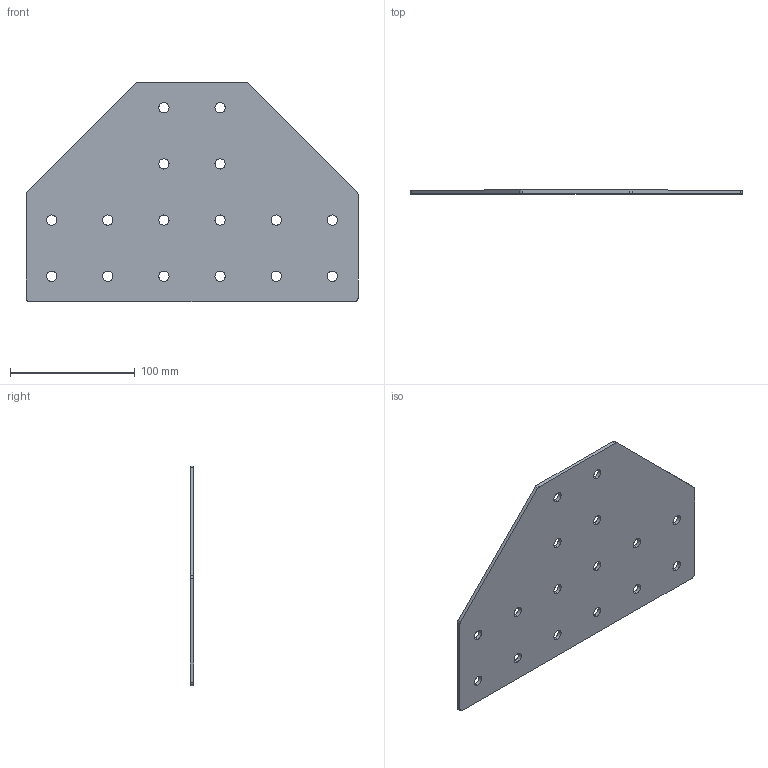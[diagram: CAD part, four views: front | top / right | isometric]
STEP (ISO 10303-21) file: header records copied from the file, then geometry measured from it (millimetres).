
FILE_DESCRIPTION (( 'STEP AP203' ), '1' );
FILE_NAME ('ﾒ-16-ﾓ-45.STEP', '2016-07-22T11:40:04', ( '' ), ( '' ), 'SwSTEP 2.0', 'SolidWorks 2014', '' );
FILE_SCHEMA (( 'CONFIG_CONTROL_DESIGN' ));
Length unit declared in the file: millimetre
Products named in the file (1): ﾒ-16-ﾓ-45
Bounding box: 266 x 3 x 176 mm (x, y, z)
Surface area: 79718.9 mm2 (no closed solid volume)
Topology: 0 solids, 1 shells, 46 faces, 132 edges, 88 vertices
Faces by surface type: cylinder 38, plane 8
Entity records: 1693 total; most frequent: DIRECTION 302, CARTESIAN_POINT 267, ORIENTED_EDGE 264, EDGE_CURVE 132, AXIS2_PLACEMENT_3D 123, VERTEX_POINT 88, EDGE_LOOP 78, CIRCLE 76
